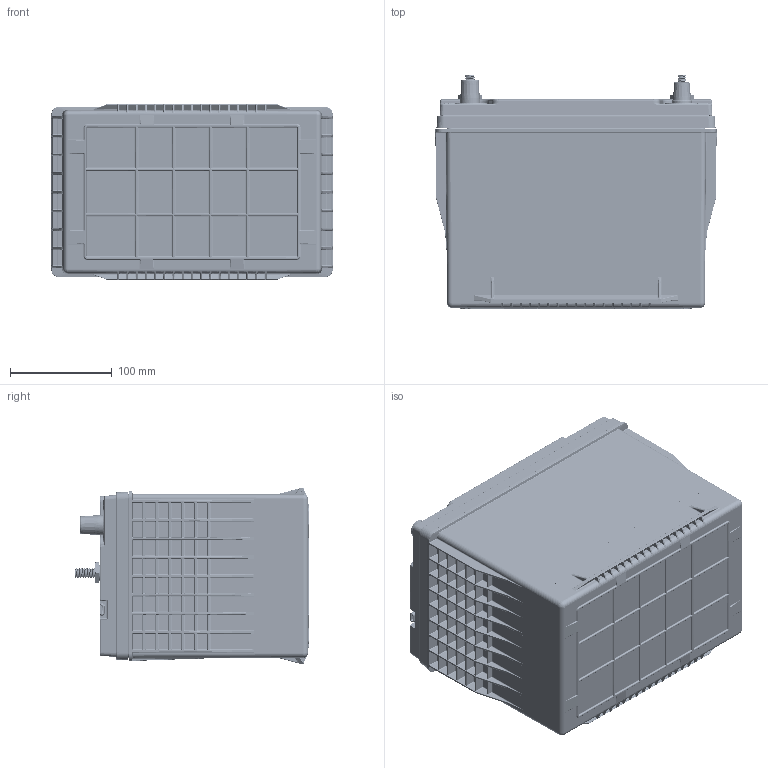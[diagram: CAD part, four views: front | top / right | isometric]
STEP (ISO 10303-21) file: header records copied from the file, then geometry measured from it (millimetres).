
FILE_DESCRIPTION (( 'STEP AP203' ), '1' );
FILE_NAME ('ODP-AGM24M.STEP', '2024-03-25T20:19:34', ( '' ), ( '' ), 'SwSTEP 2.0', 'SolidWorks 2022', '' );
FILE_SCHEMA (( 'CONFIG_CONTROL_DESIGN' ));
Products named in the file (1): ODP-AGM24M
Bounding box: 276 x 230.03 x 171.96 mm (x, y, z)
Volume: 1527225.5 mm3; surface area: 1084701.3 mm2
Topology: 22 solids, 22 shells, 11961 faces, 28454 edges, 15577 vertices
Faces by surface type: cylinder 4761, bspline 3035, plane 2324, sphere 1113, torus 388, cone 340
Full cylindrical faces by diameter (mm): 6.35 x2, 6.777 x2, 7.925 x1, 9.525 x1, 10.084 x2, 11.654 x2, 11.659 x2, 13.716 x2, 14.275 x4, 15.24 x4, 15.85 x2, 15.875 x2, 16.154 x2, 18.8 x2, 19.101 x2, 19.329 x2, 28.55 x2, 28.575 x2
Entity records: 428355 total; most frequent: CARTESIAN_POINT 189479, ORIENTED_EDGE 54224, DIRECTION 45689, EDGE_CURVE 27112, AXIS2_PLACEMENT_3D 17591, VERTEX_POINT 15440, EDGE_LOOP 12320, FACE_OUTER_BOUND 12057
